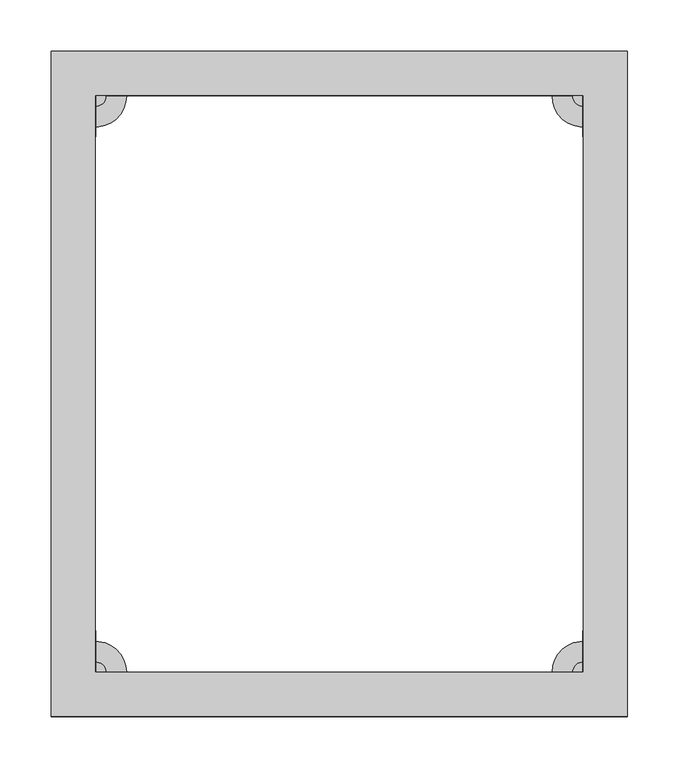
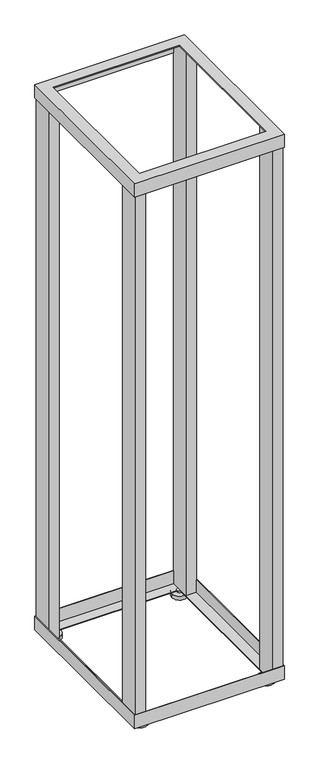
"""IFC4 building model written with IfcOpenShell, lengths in millimetres: proxy geometry, Шкафы ITK серия F : LF05-45U68-2R."""

from ifc_helpers import new_model, si_unit, point, frame, frame_2d, origin, origin_with_axes, place, context, project, spatial, polyline, circle_curve, trimmed, segment, composite_curve, outline, extrude, faceted_brep, source, transform, mapped, element, save


def electrical_fixtures_3db55504(model_context):
    return source(origin(), model_context, "Body", "SolidModel", [
        extrude(outline(composite_curve([segment(trimmed(circle_curve(frame_2d((-237.0, 280.0)), 10.0), [point((-227.0, 280.0))], [point((-247.0, 280.0))], False, "CARTESIAN"), True, "CONTINUOUS"), segment(trimmed(circle_curve(frame_2d((-237.0, 280.0)), 10.0), [point((-247.0, 280.0))], [point((-227.0, 280.0))], False, "CARTESIAN"), True, "CONTINUOUS")], self_intersect=False)), frame((0.0, 0.0, 15.0), z_axis=(0.0, 0.0, 1.0), x_axis=(1.0, 0.0, 0.0)), (0.0, 0.0, 1.0), 5.0),
        extrude(outline(composite_curve([segment(trimmed(circle_curve(frame_2d((237.0, 280.0)), 10.0), [point((247.0, 280.0))], [point((227.0, 280.0))], False, "CARTESIAN"), True, "CONTINUOUS"), segment(trimmed(circle_curve(frame_2d((237.0, 280.0)), 10.0), [point((227.0, 280.0))], [point((247.0, 280.0))], False, "CARTESIAN"), True, "CONTINUOUS")], self_intersect=False)), frame((0.0, 0.0, 15.0), z_axis=(0.0, 0.0, 1.0), x_axis=(1.0, 0.0, 0.0)), (0.0, 0.0, 1.0), 5.0),
        extrude(outline(composite_curve([segment(trimmed(circle_curve(frame_2d((-237.0, -280.0)), 10.0), [point((-227.0, -280.0))], [point((-247.0, -280.0))], False, "CARTESIAN"), True, "CONTINUOUS"), segment(trimmed(circle_curve(frame_2d((-237.0, -280.0)), 10.0), [point((-247.0, -280.0))], [point((-227.0, -280.0))], False, "CARTESIAN"), True, "CONTINUOUS")], self_intersect=False)), frame((0.0, 0.0, 15.0), z_axis=(0.0, 0.0, 1.0), x_axis=(1.0, 0.0, 0.0)), (0.0, 0.0, 1.0), 5.0),
        extrude(outline(composite_curve([segment(trimmed(circle_curve(frame_2d((237.0, -280.0)), 10.0), [point((247.0, -280.0))], [point((227.0, -280.0))], False, "CARTESIAN"), True, "CONTINUOUS"), segment(trimmed(circle_curve(frame_2d((237.0, -280.0)), 10.0), [point((227.0, -280.0))], [point((247.0, -280.0))], False, "CARTESIAN"), True, "CONTINUOUS")], self_intersect=False)), frame((0.0, 0.0, 15.0), z_axis=(0.0, 0.0, 1.0), x_axis=(1.0, 0.0, 0.0)), (0.0, 0.0, 1.0), 5.0),
        extrude(outline(composite_curve([segment(trimmed(circle_curve(frame_2d((-237.0, 280.0)), 30.0), [point((-207.0, 280.0))], [point((-267.0, 280.0))], False, "CARTESIAN"), True, "CONTINUOUS"), segment(trimmed(circle_curve(frame_2d((-237.0, 280.0)), 30.0), [point((-267.0, 280.0))], [point((-207.0, 280.0))], False, "CARTESIAN"), True, "CONTINUOUS")], self_intersect=False)), origin_with_axes(), (0.0, 0.0, 1.0), 15.0),
        extrude(outline(composite_curve([segment(trimmed(circle_curve(frame_2d((237.0, 280.0)), 30.0), [point((267.0, 280.0))], [point((207.0, 280.0))], False, "CARTESIAN"), True, "CONTINUOUS"), segment(trimmed(circle_curve(frame_2d((237.0, 280.0)), 30.0), [point((207.0, 280.0))], [point((267.0, 280.0))], False, "CARTESIAN"), True, "CONTINUOUS")], self_intersect=False)), origin_with_axes(), (0.0, 0.0, 1.0), 15.0),
        extrude(outline(composite_curve([segment(trimmed(circle_curve(frame_2d((-237.0, -280.0)), 30.0), [point((-207.0, -280.0))], [point((-267.0, -280.0))], False, "CARTESIAN"), True, "CONTINUOUS"), segment(trimmed(circle_curve(frame_2d((-237.0, -280.0)), 30.0), [point((-267.0, -280.0))], [point((-207.0, -280.0))], False, "CARTESIAN"), True, "CONTINUOUS")], self_intersect=False)), origin_with_axes(), (0.0, 0.0, 1.0), 15.0),
        extrude(outline(composite_curve([segment(trimmed(circle_curve(frame_2d((237.0, -280.0)), 30.0), [point((267.0, -280.0))], [point((207.0, -280.0))], False, "CARTESIAN"), True, "CONTINUOUS"), segment(trimmed(circle_curve(frame_2d((237.0, -280.0)), 30.0), [point((207.0, -280.0))], [point((267.0, -280.0))], False, "CARTESIAN"), True, "CONTINUOUS")], self_intersect=False)), origin_with_axes(), (0.0, 0.0, 1.0), 15.0),
        faceted_brep([(237.0, 280.0, 2171.0), (237.0, 280.0, 2168.0), (237.0, -280.0, 2168.0), (237.0, -280.0, 2171.0), (280.0, 323.0, 2118.0), (280.0, 323.0, 2171.0), (280.0, -323.0, 2171.0), (280.0, -323.0, 2118.0), (277.0, 320.0, 2168.0), (277.0, 320.0, 2118.0), (277.0, -320.0, 2118.0), (277.0, -320.0, 2168.0), (-237.0, -280.0, 2168.0), (-237.0, -280.0, 2171.0), (-280.0, -323.0, 2171.0), (-280.0, -323.0, 2118.0), (-277.0, -320.0, 2118.0), (-277.0, -320.0, 2168.0), (-237.0, 280.0, 2168.0), (-237.0, 280.0, 2171.0), (-280.0, 323.0, 2171.0), (-280.0, 323.0, 2118.0), (-277.0, 320.0, 2118.0), (-277.0, 320.0, 2168.0)], [[[0, 1, 2, 3]], [[4, 5, 6, 7]], [[8, 9, 10, 11]], [[3, 2, 12, 13]], [[7, 6, 14, 15]], [[11, 10, 16, 17]], [[13, 12, 18, 19]], [[15, 14, 20, 21]], [[17, 16, 22, 23]], [[19, 18, 1, 0]], [[5, 20, 14, 6], [3, 13, 19, 0]], [[21, 20, 5, 4]], [[7, 15, 21, 4], [9, 22, 16, 10]], [[23, 22, 9, 8]], [[11, 17, 23, 8], [1, 18, 12, 2]]]),
        faceted_brep([(280.0, 323.0, 17.0), (280.0, 323.0, 70.0), (280.0, -323.0, 70.0), (280.0, -323.0, 17.0), (237.0, 280.0, 20.0), (237.0, 280.0, 17.0), (237.0, -280.0, 17.0), (237.0, -280.0, 20.0), (277.0, 320.0, 70.0), (277.0, 320.0, 20.0), (277.0, -320.0, 20.0), (277.0, -320.0, 70.0), (-280.0, -323.0, 70.0), (-280.0, -323.0, 17.0), (-237.0, -280.0, 17.0), (-237.0, -280.0, 20.0), (-277.0, -320.0, 20.0), (-277.0, -320.0, 70.0), (-280.0, 323.0, 70.0), (-280.0, 323.0, 17.0), (-237.0, 280.0, 17.0), (-237.0, 280.0, 20.0), (-277.0, 320.0, 20.0), (-277.0, 320.0, 70.0)], [[[0, 1, 2, 3]], [[4, 5, 6, 7]], [[8, 9, 10, 11]], [[3, 2, 12, 13]], [[7, 6, 14, 15]], [[11, 10, 16, 17]], [[13, 12, 18, 19]], [[15, 14, 20, 21]], [[17, 16, 22, 23]], [[1, 18, 12, 2], [11, 17, 23, 8]], [[19, 18, 1, 0]], [[3, 13, 19, 0], [5, 20, 14, 6]], [[21, 20, 5, 4]], [[9, 22, 16, 10], [7, 15, 21, 4]], [[23, 22, 9, 8]]]),
        extrude(outline(polyline([(-237.0, -240.0), (-237.0, -320.0), (-277.0, -320.0), (-277.0, -240.0), (-237.0, -240.0)]), holes=[polyline([(-240.0, -243.0), (-274.0, -243.0), (-274.0, -317.0), (-240.0, -317.0), (-240.0, -243.0)])]), frame((0.0, 0.0, 20.0), z_axis=(0.0, 0.0, 1.0), x_axis=(1.0, 0.0, 0.0)), (0.0, 0.0, 1.0), 2148.0),
        extrude(outline(polyline([(237.0, 240.0), (237.0, 320.0), (277.0, 320.0), (277.0, 240.0), (237.0, 240.0)]), holes=[polyline([(274.0, 243.0), (274.0, 317.0), (240.0, 317.0), (240.0, 243.0), (274.0, 243.0)])]), frame((0.0, 0.0, 20.0), z_axis=(0.0, 0.0, 1.0), x_axis=(1.0, 0.0, 0.0)), (0.0, 0.0, 1.0), 2148.0),
        extrude(outline(polyline([(-237.0, 240.0), (-277.0, 240.0), (-277.0, 320.0), (-237.0, 320.0), (-237.0, 240.0)]), holes=[polyline([(-274.0, 317.0), (-274.0, 243.0), (-240.0, 243.0), (-240.0, 317.0), (-274.0, 317.0)])]), frame((0.0, 0.0, 20.0), z_axis=(0.0, 0.0, 1.0), x_axis=(1.0, 0.0, 0.0)), (0.0, 0.0, 1.0), 2148.0),
        extrude(outline(polyline([(237.0, -240.0), (277.0, -240.0), (277.0, -320.0), (237.0, -320.0), (237.0, -240.0)]), holes=[polyline([(274.0, -317.0), (274.0, -243.0), (240.0, -243.0), (240.0, -317.0), (274.0, -317.0)])]), frame((0.0, 0.0, 20.0), z_axis=(0.0, 0.0, 1.0), x_axis=(1.0, 0.0, 0.0)), (0.0, 0.0, 1.0), 2148.0),
    ])


if __name__ == "__main__":
    model = new_model("IFC4")
    model_context = context("Model", 3, world=origin())
    ifc_project = project(units=[si_unit("LENGTHUNIT", "METRE", prefix="MILLI")], contexts=[model_context])
    site = spatial("IfcSite", under=ifc_project)
    building = spatial("IfcBuilding", under=site)
    placement = place(None, origin())
    electrical_fixtures_shape = electrical_fixtures_3db55504(model_context)
    element("IfcBuildingElementProxy", 1, Name="Шкафы ITK серия F : LF05-45U68-2R", ObjectType="Шкафы ITK серия F : LF05-45U68-2R", at=placement, inside=building, context=model_context, shape_type="MappedRepresentation", body=[
        mapped(electrical_fixtures_shape, transform((0.0, 0.0, 0.0), x_axis=(1.0, 0.0, 0.0), y_axis=(0.0, 1.0, 0.0), z_axis=(0.0, 0.0, 1.0))),
    ])
    save(model, "model.ifc")
